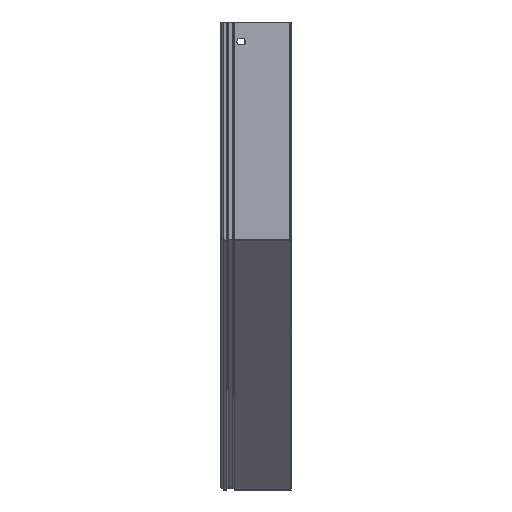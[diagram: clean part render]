
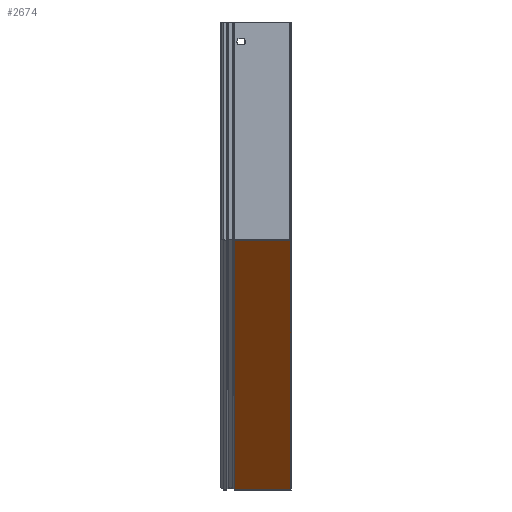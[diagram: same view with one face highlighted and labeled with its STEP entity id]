
A CAD part, left-side view. The second image highlights one B-rep face of the part: STEP entity #2674.
In plain terms, the highlighted planar face has unit normal (-0.707, 0, -0.707).
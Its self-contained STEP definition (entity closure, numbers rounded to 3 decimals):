
#271 = EDGE_CURVE ( 'NONE', #2470, #5251, #294, .T. ) ;
#294 = LINE ( 'NONE', #2034, #4444 ) ;
#314 = VECTOR ( 'NONE', #844, 1000. ) ;
#320 = DIRECTION ( 'NONE',  ( 0., -1., 0. ) ) ;
#481 = EDGE_CURVE ( 'NONE', #3131, #5251, #3202, .T. ) ;
#607 = LINE ( 'NONE', #2383, #3866 ) ;
#665 = ORIENTED_EDGE ( 'NONE', *, *, #271, .F. ) ;
#844 = DIRECTION ( 'NONE',  ( -0.707, 0., 0.707 ) ) ;
#1015 = DIRECTION ( 'NONE',  ( 0., 1., 0. ) ) ;
#1066 = DIRECTION ( 'NONE',  ( -0.707, 0., 0.707 ) ) ;
#1697 = EDGE_CURVE ( 'NONE', #3131, #3026, #607, .T. ) ;
#1706 = CARTESIAN_POINT ( 'NONE',  ( -308., 79.5, 0. ) ) ;
#1782 = FACE_OUTER_BOUND ( 'NONE', #2243, .T. ) ;
#2034 = CARTESIAN_POINT ( 'NONE',  ( -660.846, 0., 352.846 ) ) ;
#2243 = EDGE_LOOP ( 'NONE', ( #665, #3960, #3648, #3343 ) ) ;
#2383 = CARTESIAN_POINT ( 'NONE',  ( -308., 0., 0. ) ) ;
#2461 = CARTESIAN_POINT ( 'NONE',  ( -308., 79.5, 0. ) ) ;
#2470 = VERTEX_POINT ( 'NONE', #2821 ) ;
#2511 = AXIS2_PLACEMENT_3D ( 'NONE', #3517, #4713, #4761 ) ;
#2670 = EDGE_CURVE ( 'NONE', #3026, #2470, #5191, .T. ) ;
#2674 = ADVANCED_FACE ( 'NONE', ( #1782 ), #3034, .F. ) ;
#2821 = CARTESIAN_POINT ( 'NONE',  ( -660.846, 79.5, 352.846 ) ) ;
#3026 = VERTEX_POINT ( 'NONE', #2461 ) ;
#3034 = PLANE ( 'NONE',  #2511 ) ;
#3131 = VERTEX_POINT ( 'NONE', #5585 ) ;
#3202 = LINE ( 'NONE', #4872, #4537 ) ;
#3343 = ORIENTED_EDGE ( 'NONE', *, *, #481, .T. ) ;
#3517 = CARTESIAN_POINT ( 'NONE',  ( -308., 0., 0. ) ) ;
#3648 = ORIENTED_EDGE ( 'NONE', *, *, #1697, .F. ) ;
#3866 = VECTOR ( 'NONE', #1015, 1000. ) ;
#3960 = ORIENTED_EDGE ( 'NONE', *, *, #2670, .F. ) ;
#4444 = VECTOR ( 'NONE', #320, 1000. ) ;
#4537 = VECTOR ( 'NONE', #1066, 1000. ) ;
#4713 = DIRECTION ( 'NONE',  ( 0.707, 0., 0.707 ) ) ;
#4761 = DIRECTION ( 'NONE',  ( 0.707, 0., -0.707 ) ) ;
#4872 = CARTESIAN_POINT ( 'NONE',  ( -308., -1., 0. ) ) ;
#5105 = CARTESIAN_POINT ( 'NONE',  ( -660.846, -1., 352.846 ) ) ;
#5191 = LINE ( 'NONE', #1706, #314 ) ;
#5251 = VERTEX_POINT ( 'NONE', #5105 ) ;
#5585 = CARTESIAN_POINT ( 'NONE',  ( -308., -1., 0. ) ) ;
